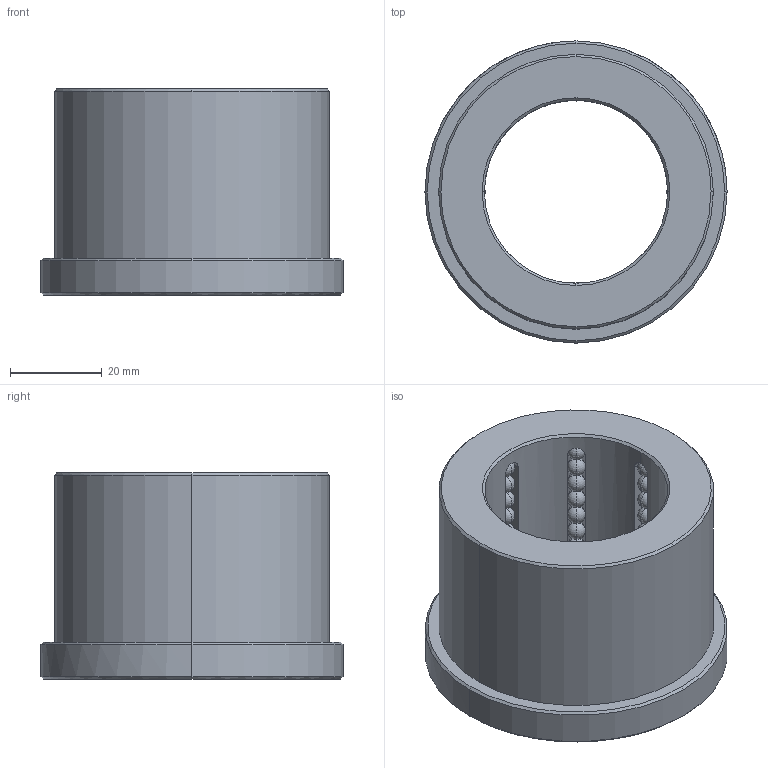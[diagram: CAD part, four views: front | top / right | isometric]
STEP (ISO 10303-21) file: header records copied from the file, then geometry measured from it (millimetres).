
FILE_DESCRIPTION(('CATIA V5 STEP Exchange'),'2;1');
FILE_NAME('C:\Users\Raffaele\Desktop\3D BOLEX\3D FILES CF BOLEX\1-BUSH REF 801\B8014045.stp','2019-06-19T13:45:09+00:00',('none'),('none'),'CATIA Version 5 Release 20 GA (IN-10)','CATIA V5 STEP AP203','none');
FILE_SCHEMA(('CONFIG_CONTROL_DESIGN'));
Length unit declared in the file: millimetre
Products named in the file (1): B8014045
Bounding box: 66 x 66 x 45 mm (x, y, z)
Volume: 73127.3 mm3; surface area: 24524.6 mm2
Topology: 73 solids, 73 shells, 357 faces, 1034 edges, 254 vertices
Faces by surface type: sphere 288, plane 27, cylinder 22, cone 20
Entity records: 7193 total; most frequent: CARTESIAN_POINT 1555, DIRECTION 1135, ORIENTED_EDGE 916, AXIS2_PLACEMENT_3D 687, EDGE_CURVE 458, EDGE_LOOP 366, ADVANCED_FACE 357, FACE_OUTER_BOUND 357
